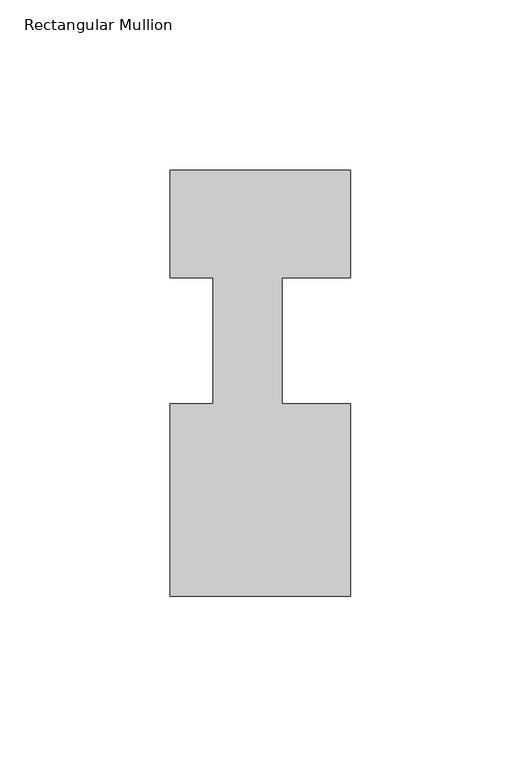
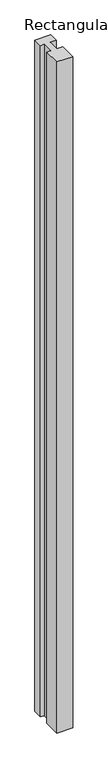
"""IFC4 building model written with IfcOpenShell, lengths in millimetres: member geometry, Rectangular Mullion : IMP310 125mm x 53mm Vertical."""

from ifc_helpers import new_model, si_unit, frame, origin, place, context, project, spatial, polyline, outline, extrude, source, transform, mapped, element, save


def rectangular_mullion_3a4132bf(model_context):
    return source(origin(), model_context, "Body", "SweptSolid", [
        extrude(outline(polyline([(-26.5, -75.0), (-26.5, -18.5), (-13.9480934, -18.5), (-13.9480934, 18.5), (-26.5, 18.5), (-26.5, 50.0), (26.5, 50.0), (26.5, 18.5), (6.35, 18.5), (6.35, -18.5), (26.5, -18.5), (26.5, -75.0), (-26.5, -75.0)])), frame((0.0, 0.0, -2347.0), z_axis=(0.0, 0.0, 1.0), x_axis=(1.0, 0.0, 0.0)), (0.0, 0.0, 1.0), 2347.0),
    ])


if __name__ == "__main__":
    model = new_model("IFC4")
    model_context = context("Model", 3, world=origin())
    ifc_project = project(units=[si_unit("LENGTHUNIT", "METRE", prefix="MILLI")], contexts=[model_context])
    site = spatial("IfcSite", under=ifc_project)
    building = spatial("IfcBuilding", under=site)
    placement = place(None, origin())
    rectangular_mullion_shape = rectangular_mullion_3a4132bf(model_context)
    element("IfcMember", 1, ObjectType="Rectangular Mullion : IMP310 125mm x 53mm Vertical", at=placement, inside=building, context=model_context, shape_type="MappedRepresentation", body=[
        mapped(rectangular_mullion_shape, transform((0.0, 0.0, 0.0), x_axis=(1.0, 0.0, 0.0), y_axis=(0.0, 1.0, 0.0), z_axis=(0.0, 0.0, 1.0))),
    ])
    save(model, "model.ifc")
